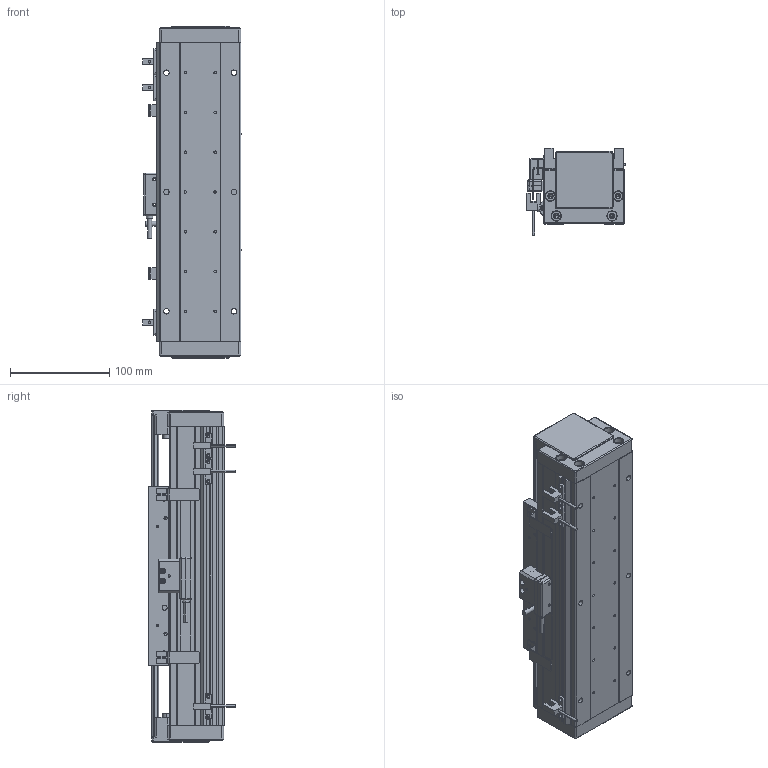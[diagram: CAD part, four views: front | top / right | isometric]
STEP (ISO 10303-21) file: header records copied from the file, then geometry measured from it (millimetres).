
FILE_DESCRIPTION (( 'STEP AP203' ), '1' );
FILE_NAME ('DA-A82-B2-T80-C010-0.2 眻盄萇儂.STEP', '2025-08-13T03:01:37', ( '' ), ( '' ), 'SwSTEP 2.0', 'SolidWorks 2019', '' );
FILE_SCHEMA (( 'CONFIG_CONTROL_DESIGN' ));
Length unit declared in the file: millimetre
Products named in the file (21): 葩璃 DA82-T-002-00 裔啣^DA-A82-B2-T-C010-0.2; AU82-M 幗紩賑怢; DA-A60-GYP-DMT-00 光电感应片^DA-A82-B2-T-C010-0.2(默认); AU82-HT-M-00 賑雄怢啣; 复件 DA95-GT-T-00 底座钢轨^IU-AU82-L 底座导轨; 葩璃 DA82-B2-DP-00 結え^AU82-M 幗紩賑怢; 葩璃 DMT-010 1米m 0.2M^DA-A82-B2-T-C010-0.2; 葩璃 XD-U-02  棠掑喜^DA-A82-B2-T-C010-0.2; 葩璃 DA60-DMT-DTJ-00 黍杅芛盓殤^DA-A82-B2-T-C010-0.2; 复件 复件 DA82-XJ-00 缓冲橡胶^DA-A82-B2-T-C010-0.2; 复件 纯铜油杯 6x6mm^AU82-M 滚珠滑台; 葩璃 鞠褒情蹟譫 M3^DA-A82-B2-T-C010-0.2; AU82-M-00 珨极趙賑雄怢啣; DA-A82-B2-T80-C010-0.2 眻盄萇儂; 复件 DA82-DG-H-N-00 端盖^DA-A82-B2-T-C010-0.2(默认_按加工_); IU-AU82-L-00 菁釱(L300); IU-AU82-L 菁釱絳寢; 复件 DA95-B2-GT-00 滑块钢轨^AU82-M-00 一体化滑动台板; ｸｴｼ BKM02-W040-C1-TP-DA-3.0 ﾖｱﾏﾟｵ扈巐ｯﾗﾓ^DA-A82-B2-T-C010-0.2; 葩璃 PM-T45^DA-A82-B2-T-C010-0.2; 葩璃 BKM01-W040-TRL^DA-A82-B2-T-C010-0.2
Assembly tree (36 placements, depth 4):
  DA-A82-B2-T80-C010-0.2 眻盄萇儂
    IU-AU82-L 菁釱絳寢
      IU-AU82-L-00 菁釱(L300)
      复件 DA95-GT-T-00 底座钢轨^IU-AU82-L 底座导轨  x2
    AU82-M 幗紩賑怢
      AU82-M-00 珨极趙賑雄怢啣
        AU82-HT-M-00 賑雄怢啣
        复件 DA95-B2-GT-00 滑块钢轨^AU82-M-00 一体化滑动台板  x4
      葩璃 DA82-B2-DP-00 結え^AU82-M 幗紩賑怢  x2
      复件 纯铜油杯 6x6mm^AU82-M 滚珠滑台  x2
    葩璃 DA60-DMT-DTJ-00 黍杅芛盓殤^DA-A82-B2-T-C010-0.2
    葩璃 DMT-010 1米m 0.2M^DA-A82-B2-T-C010-0.2
    DA-A60-GYP-DMT-00 光电感应片^DA-A82-B2-T-C010-0.2(默认)  x2
    ｸｴｼ BKM02-W040-C1-TP-DA-3.0 ﾖｱﾏﾟｵ扈巐ｯﾗﾓ^DA-A82-B2-T-C010-0.2
    复件 复件 DA82-XJ-00 缓冲橡胶^DA-A82-B2-T-C010-0.2  x2
    复件 DA82-DG-H-N-00 端盖^DA-A82-B2-T-C010-0.2(默认_按加工_)  x2
    葩璃 DA82-T-002-00 裔啣^DA-A82-B2-T-C010-0.2
    葩璃 BKM01-W040-TRL^DA-A82-B2-T-C010-0.2
    葩璃 PM-T45^DA-A82-B2-T-C010-0.2  x3
    葩璃 XD-U-02  棠掑喜^DA-A82-B2-T-C010-0.2
    葩璃 鞠褒情蹟譫 M3^DA-A82-B2-T-C010-0.2  x6
Bounding box: 98.95 x 87.2 x 334 mm (x, y, z)
Volume: 1433717.4 mm3; surface area: 394204.8 mm2
Topology: 40 solids, 64 shells, 1809 faces, 4606 edges, 2836 vertices
Faces by surface type: plane 754, cylinder 747, cone 252, torus 38, bspline 12, sphere 6
Entity records: 44455 total; most frequent: CARTESIAN_POINT 9157, DIRECTION 7054, ORIENTED_EDGE 6534, EDGE_CURVE 3267, AXIS2_PLACEMENT_3D 2606, VERTEX_POINT 2103, LINE 1842, VECTOR 1842
